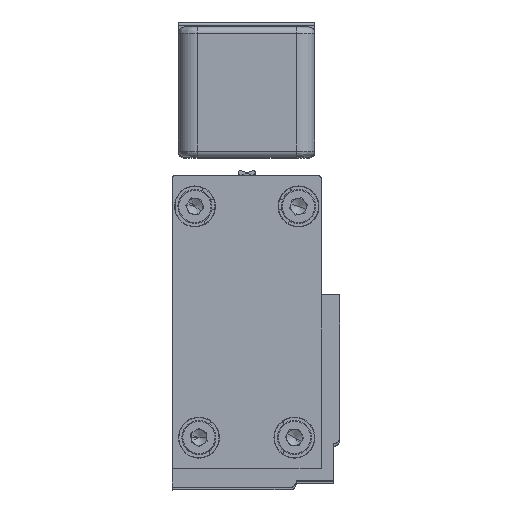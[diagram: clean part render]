
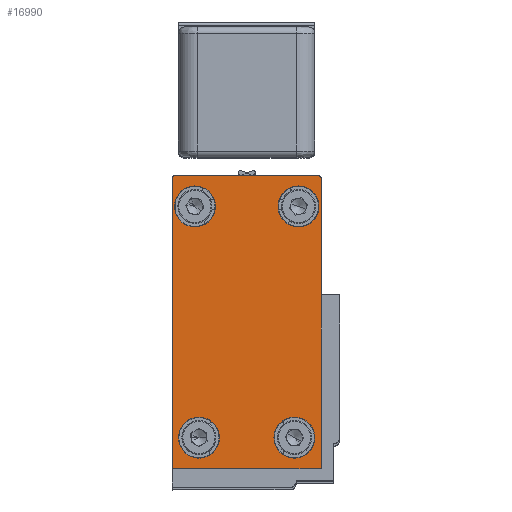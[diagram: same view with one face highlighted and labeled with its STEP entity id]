
A CAD part, top view. The second image highlights one B-rep face of the part: STEP entity #16990.
In plain terms, the highlighted planar face has unit normal (0, 0, 1).
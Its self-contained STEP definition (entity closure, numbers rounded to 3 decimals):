
#440 = VECTOR ( 'NONE', #23351, 1000. ) ;
#699 = CARTESIAN_POINT ( 'NONE',  ( -14.365, 21.401, 3185. ) ) ;
#946 = LINE ( 'NONE', #18076, #31630 ) ;
#1131 = AXIS2_PLACEMENT_3D ( 'NONE', #22905, #22855, #22815 ) ;
#1793 = EDGE_LOOP ( 'NONE', ( #27798, #21099 ) ) ;
#1910 = CIRCLE ( 'NONE', #1131, 3.302 ) ;
#1913 = EDGE_CURVE ( 'NONE', #21014, #4106, #9042, .T. ) ;
#2029 = EDGE_CURVE ( 'NONE', #29681, #9308, #28608, .T. ) ;
#2467 = DIRECTION ( 'NONE',  ( 0., 0., -1. ) ) ;
#2823 = VERTEX_POINT ( 'NONE', #30405 ) ;
#2831 = DIRECTION ( 'NONE',  ( 1., 0., 0. ) ) ;
#2876 = CARTESIAN_POINT ( 'NONE',  ( 5.984, 7.11, 3185. ) ) ;
#2997 = AXIS2_PLACEMENT_3D ( 'NONE', #11024, #31800, #14020 ) ;
#3605 = VERTEX_POINT ( 'NONE', #17483 ) ;
#3864 = LINE ( 'NONE', #14653, #34535 ) ;
#4106 = VERTEX_POINT ( 'NONE', #11093 ) ;
#4331 = AXIS2_PLACEMENT_3D ( 'NONE', #32768, #14949, #35734 ) ;
#5181 = VERTEX_POINT ( 'NONE', #35039 ) ;
#5765 = CIRCLE ( 'NONE', #14447, 0.5 ) ;
#5834 = AXIS2_PLACEMENT_3D ( 'NONE', #9556, #30326, #12556 ) ;
#7222 = ORIENTED_EDGE ( 'NONE', *, *, #2029, .T. ) ;
#7226 = CARTESIAN_POINT ( 'NONE',  ( 5.984, -20.888, 3185. ) ) ;
#7772 = FACE_BOUND ( 'NONE', #29517, .T. ) ;
#7999 = EDGE_CURVE ( 'NONE', #4106, #21014, #11190, .T. ) ;
#8206 = ORIENTED_EDGE ( 'NONE', *, *, #12144, .T. ) ;
#8230 = CARTESIAN_POINT ( 'NONE',  ( 5.984, -20.888, 3185. ) ) ;
#8423 = CARTESIAN_POINT ( 'NONE',  ( -1.626, -15.887, 3185. ) ) ;
#9042 = CIRCLE ( 'NONE', #12532, 3.302 ) ;
#9137 = CARTESIAN_POINT ( 'NONE',  ( -17.514, 26.371, 3185. ) ) ;
#9191 = ORIENTED_EDGE ( 'NONE', *, *, #36410, .T. ) ;
#9199 = ORIENTED_EDGE ( 'NONE', *, *, #38097, .T. ) ;
#9308 = VERTEX_POINT ( 'NONE', #8423 ) ;
#9329 = VERTEX_POINT ( 'NONE', #8230 ) ;
#9556 = CARTESIAN_POINT ( 'NONE',  ( 2.335, 21.401, 3185. ) ) ;
#9571 = CARTESIAN_POINT ( 'NONE',  ( -17.514, 25.871, 3185. ) ) ;
#10074 = DIRECTION ( 'NONE',  ( -1., 0., 0. ) ) ;
#10751 = ORIENTED_EDGE ( 'NONE', *, *, #30997, .T. ) ;
#11024 = CARTESIAN_POINT ( 'NONE',  ( 1.676, -15.887, 3185. ) ) ;
#11093 = CARTESIAN_POINT ( 'NONE',  ( -17.667, 21.401, 3185. ) ) ;
#11190 = CIRCLE ( 'NONE', #31704, 3.302 ) ;
#11529 = CARTESIAN_POINT ( 'NONE',  ( 4.978, -15.887, 3185. ) ) ;
#12081 = ORIENTED_EDGE ( 'NONE', *, *, #1913, .T. ) ;
#12144 = EDGE_CURVE ( 'NONE', #5181, #20095, #5765, .T. ) ;
#12532 = AXIS2_PLACEMENT_3D ( 'NONE', #699, #30891, #10074 ) ;
#12556 = DIRECTION ( 'NONE',  ( -1., 0., 0. ) ) ;
#12574 = DIRECTION ( 'NONE',  ( 0., 1., 0. ) ) ;
#13346 = EDGE_CURVE ( 'NONE', #22065, #34641, #32124, .T. ) ;
#14020 = DIRECTION ( 'NONE',  ( -1., 0., 0. ) ) ;
#14447 = AXIS2_PLACEMENT_3D ( 'NONE', #17919, #17884, #17877 ) ;
#14653 = CARTESIAN_POINT ( 'NONE',  ( -18.014, -20.888, 3185. ) ) ;
#14949 = DIRECTION ( 'NONE',  ( 0., 0., -1. ) ) ;
#15064 = DIRECTION ( 'NONE',  ( -1., 0., 0. ) ) ;
#15068 = CIRCLE ( 'NONE', #33367, 0.5 ) ;
#15449 = EDGE_CURVE ( 'NONE', #2823, #33445, #1910, .T. ) ;
#16209 = LINE ( 'NONE', #20369, #440 ) ;
#16925 = ORIENTED_EDGE ( 'NONE', *, *, #22330, .T. ) ;
#16990 = ADVANCED_FACE ( 'NONE', ( #30580, #7772, #31487, #38450, #22655 ), #30153, .T. ) ;
#17483 = CARTESIAN_POINT ( 'NONE',  ( -18.014, -20.888, 3185. ) ) ;
#17597 = CARTESIAN_POINT ( 'NONE',  ( -18.014, 25.871, 3185. ) ) ;
#17664 = VECTOR ( 'NONE', #20545, 1000. ) ;
#17877 = DIRECTION ( 'NONE',  ( 0., 1., 0. ) ) ;
#17884 = DIRECTION ( 'NONE',  ( 0., 0., 1. ) ) ;
#17919 = CARTESIAN_POINT ( 'NONE',  ( 5.485, 25.871, 3185. ) ) ;
#18072 = CARTESIAN_POINT ( 'NONE',  ( -0.967, 21.401, 3185. ) ) ;
#18076 = CARTESIAN_POINT ( 'NONE',  ( 5.485, 26.371, 3185. ) ) ;
#19065 = VERTEX_POINT ( 'NONE', #2876 ) ;
#20095 = VERTEX_POINT ( 'NONE', #27856 ) ;
#20360 = ORIENTED_EDGE ( 'NONE', *, *, #29884, .F. ) ;
#20369 = CARTESIAN_POINT ( 'NONE',  ( -18.014, 25.871, 3185. ) ) ;
#20545 = DIRECTION ( 'NONE',  ( 0., 1., 0. ) ) ;
#20792 = CARTESIAN_POINT ( 'NONE',  ( 2.335, 21.401, 3185. ) ) ;
#21014 = VERTEX_POINT ( 'NONE', #25733 ) ;
#21099 = ORIENTED_EDGE ( 'NONE', *, *, #15449, .T. ) ;
#21218 = EDGE_LOOP ( 'NONE', ( #22873, #25602, #8206, #16925, #20360, #9199, #9191 ) ) ;
#21892 = EDGE_CURVE ( 'NONE', #19065, #5181, #31008, .T. ) ;
#22065 = VERTEX_POINT ( 'NONE', #28882 ) ;
#22330 = EDGE_CURVE ( 'NONE', #20095, #27503, #946, .T. ) ;
#22655 = FACE_OUTER_BOUND ( 'NONE', #21218, .T. ) ;
#22815 = DIRECTION ( 'NONE',  ( -1., 0., 0. ) ) ;
#22855 = DIRECTION ( 'NONE',  ( 0., 0., -1. ) ) ;
#22873 = ORIENTED_EDGE ( 'NONE', *, *, #33558, .T. ) ;
#22905 = CARTESIAN_POINT ( 'NONE',  ( -13.714, -15.887, 3185. ) ) ;
#23075 = VECTOR ( 'NONE', #25366, 1000. ) ;
#23351 = DIRECTION ( 'NONE',  ( 0., -1., 0. ) ) ;
#24691 = ORIENTED_EDGE ( 'NONE', *, *, #13346, .T. ) ;
#25266 = CARTESIAN_POINT ( 'NONE',  ( 1.676, -15.887, 3185. ) ) ;
#25366 = DIRECTION ( 'NONE',  ( 0., 1., 0. ) ) ;
#25573 = LINE ( 'NONE', #7226, #17664 ) ;
#25602 = ORIENTED_EDGE ( 'NONE', *, *, #21892, .T. ) ;
#25733 = CARTESIAN_POINT ( 'NONE',  ( -11.063, 21.401, 3185. ) ) ;
#26723 = EDGE_LOOP ( 'NONE', ( #35653, #12081 ) ) ;
#27051 = DIRECTION ( 'NONE',  ( -1., 0., 0. ) ) ;
#27503 = VERTEX_POINT ( 'NONE', #9137 ) ;
#27798 = ORIENTED_EDGE ( 'NONE', *, *, #34604, .T. ) ;
#27856 = CARTESIAN_POINT ( 'NONE',  ( 5.485, 26.371, 3185. ) ) ;
#27941 = DIRECTION ( 'NONE',  ( 0., 0., -1. ) ) ;
#28446 = AXIS2_PLACEMENT_3D ( 'NONE', #25266, #27941, #32129 ) ;
#28608 = CIRCLE ( 'NONE', #28446, 3.302 ) ;
#28684 = AXIS2_PLACEMENT_3D ( 'NONE', #20792, #2467, #15064 ) ;
#28882 = CARTESIAN_POINT ( 'NONE',  ( 5.637, 21.401, 3185. ) ) ;
#29205 = DIRECTION ( 'NONE',  ( -1., 0., 0. ) ) ;
#29214 = DIRECTION ( 'NONE',  ( 0., 0., 1. ) ) ;
#29256 = CARTESIAN_POINT ( 'NONE',  ( -18.014, -20.888, 3185. ) ) ;
#29517 = EDGE_LOOP ( 'NONE', ( #34459, #24691 ) ) ;
#29681 = VERTEX_POINT ( 'NONE', #11529 ) ;
#29884 = EDGE_CURVE ( 'NONE', #32754, #27503, #15068, .T. ) ;
#30153 = PLANE ( 'NONE',  #30836 ) ;
#30317 = DIRECTION ( 'NONE',  ( -1., 0., 0. ) ) ;
#30326 = DIRECTION ( 'NONE',  ( 0., 0., -1. ) ) ;
#30340 = DIRECTION ( 'NONE',  ( 0., 0., -1. ) ) ;
#30405 = CARTESIAN_POINT ( 'NONE',  ( -10.412, -15.887, 3185. ) ) ;
#30580 = FACE_BOUND ( 'NONE', #26723, .T. ) ;
#30705 = DIRECTION ( 'NONE',  ( 0., 0., -1. ) ) ;
#30823 = CARTESIAN_POINT ( 'NONE',  ( -14.365, 21.401, 3185. ) ) ;
#30836 = AXIS2_PLACEMENT_3D ( 'NONE', #29256, #29214, #29205 ) ;
#30891 = DIRECTION ( 'NONE',  ( 0., 0., -1. ) ) ;
#30997 = EDGE_CURVE ( 'NONE', #9308, #29681, #35166, .T. ) ;
#31008 = LINE ( 'NONE', #31231, #23075 ) ;
#31231 = CARTESIAN_POINT ( 'NONE',  ( 5.984, 7.11, 3185. ) ) ;
#31487 = FACE_BOUND ( 'NONE', #37395, .T. ) ;
#31630 = VECTOR ( 'NONE', #27051, 1000. ) ;
#31704 = AXIS2_PLACEMENT_3D ( 'NONE', #30823, #30705, #30317 ) ;
#31800 = DIRECTION ( 'NONE',  ( 0., 0., -1. ) ) ;
#32124 = CIRCLE ( 'NONE', #28684, 3.302 ) ;
#32129 = DIRECTION ( 'NONE',  ( -1., 0., 0. ) ) ;
#32754 = VERTEX_POINT ( 'NONE', #17597 ) ;
#32768 = CARTESIAN_POINT ( 'NONE',  ( -13.714, -15.887, 3185. ) ) ;
#32995 = CIRCLE ( 'NONE', #5834, 3.302 ) ;
#33367 = AXIS2_PLACEMENT_3D ( 'NONE', #9571, #30340, #12574 ) ;
#33445 = VERTEX_POINT ( 'NONE', #38066 ) ;
#33558 = EDGE_CURVE ( 'NONE', #9329, #19065, #25573, .T. ) ;
#34459 = ORIENTED_EDGE ( 'NONE', *, *, #38454, .T. ) ;
#34535 = VECTOR ( 'NONE', #2831, 1000. ) ;
#34604 = EDGE_CURVE ( 'NONE', #33445, #2823, #35670, .T. ) ;
#34641 = VERTEX_POINT ( 'NONE', #18072 ) ;
#35039 = CARTESIAN_POINT ( 'NONE',  ( 5.984, 25.871, 3185. ) ) ;
#35166 = CIRCLE ( 'NONE', #2997, 3.302 ) ;
#35653 = ORIENTED_EDGE ( 'NONE', *, *, #7999, .T. ) ;
#35670 = CIRCLE ( 'NONE', #4331, 3.302 ) ;
#35734 = DIRECTION ( 'NONE',  ( -1., 0., 0. ) ) ;
#36410 = EDGE_CURVE ( 'NONE', #3605, #9329, #3864, .T. ) ;
#37395 = EDGE_LOOP ( 'NONE', ( #10751, #7222 ) ) ;
#38066 = CARTESIAN_POINT ( 'NONE',  ( -17.017, -15.887, 3185. ) ) ;
#38097 = EDGE_CURVE ( 'NONE', #32754, #3605, #16209, .T. ) ;
#38450 = FACE_BOUND ( 'NONE', #1793, .T. ) ;
#38454 = EDGE_CURVE ( 'NONE', #34641, #22065, #32995, .T. ) ;
